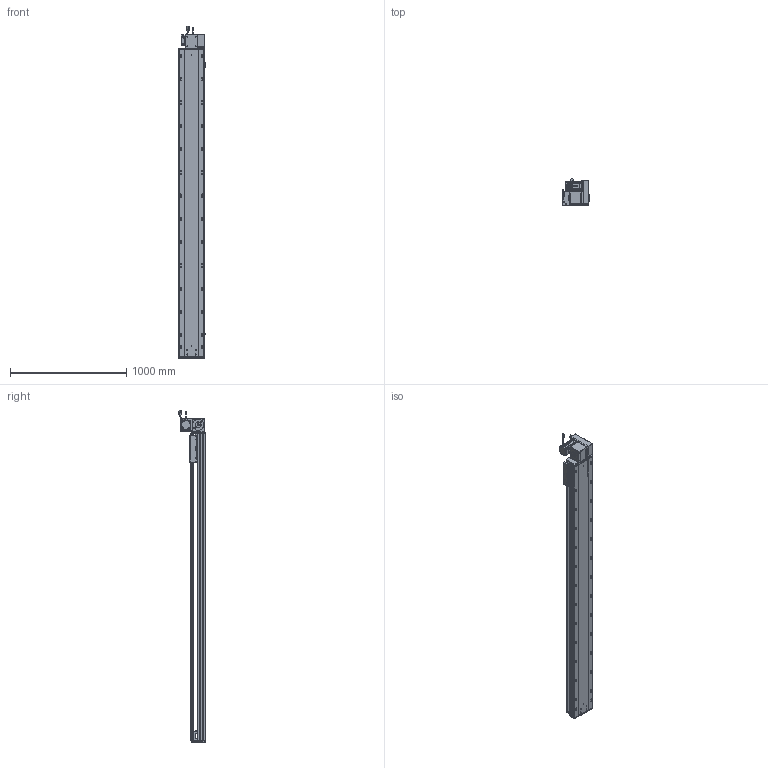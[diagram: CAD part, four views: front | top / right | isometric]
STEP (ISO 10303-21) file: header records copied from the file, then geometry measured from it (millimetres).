
FILE_DESCRIPTION (( 'STEP AP203' ), '1' );
FILE_NAME ('RY220-T-300-UR.SLDASM_2300.step', '2022-07-25T08:45:08', ( '' ), ( '' ), 'SwSTEP 2.0', 'SolidWorks 2016', '' );
FILE_SCHEMA (( 'CONFIG_CONTROL_DESIGN' ));
Length unit declared in the file: millimetre
Products named in the file (14): 覜茼ん672; RY220-俋离672覜茼んえ; 滅袉蝶18-15; RY220-T菁釱-300_2300; RY220-T-300-奻裔啣_2300; RY220圉猾敕々湍臏賑輸; RY220翋肮祭謫裔啣; RY220翋肮祭謫釱; RY220-同步轮副支撑座6304×2; 110A-T-肮祭謫釱傷裔; RY220-T-蛌殏萇儂假蚾啣(750W); RY220-T-300-UR.SLDASM_2300; 怢湛750W_ECMA-CX0807ES; RY220-T-湍謫欶(鍼踢)
Assembly tree (18 placements, depth 2):
  RY220-T-300-UR.SLDASM_2300
    RY220-T菁釱-300_2300
    RY220翋肮祭謫釱
    覜茼ん672  x3
    RY220圉猾敕々湍臏賑輸
    RY220-T-300-奻裔啣_2300
    RY220-俋离672覜茼んえ
    滅袉蝶18-15  x3
    RY220翋肮祭謫裔啣  x2
    110A-T-肮祭謫釱傷裔
    怢湛750W_ECMA-CX0807ES
    RY220-T-湍謫欶(鍼踢)
    RY220-T-蛌殏萇儂假蚾啣(750W)
    RY220-同步轮副支撑座6304×2
Bounding box: 238.7 x 231.74 x 2853.27 mm (x, y, z)
Volume: 20671875.5 mm3; surface area: 6322714.6 mm2
Topology: 19 solids, 19 shells, 2890 faces, 7991 edges, 5024 vertices
Faces by surface type: cylinder 1406, plane 1069, cone 333, bspline 56, sphere 16, torus 10
Entity records: 96371 total; most frequent: CARTESIAN_POINT 27289, ORIENTED_EDGE 14298, DIRECTION 13720, EDGE_CURVE 7149, AXIS2_PLACEMENT_3D 4924, VERTEX_POINT 4648, VECTOR 3872, LINE 3872
